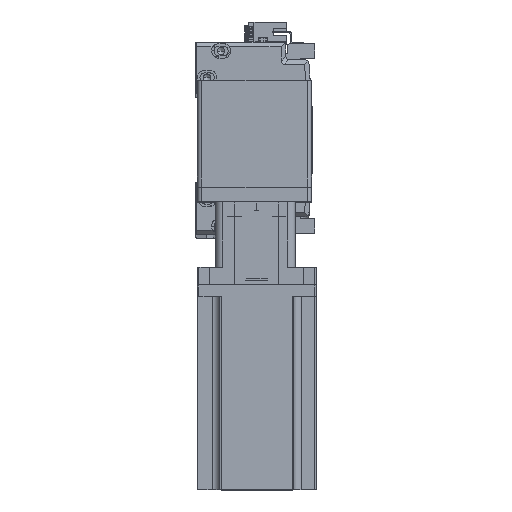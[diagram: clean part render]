
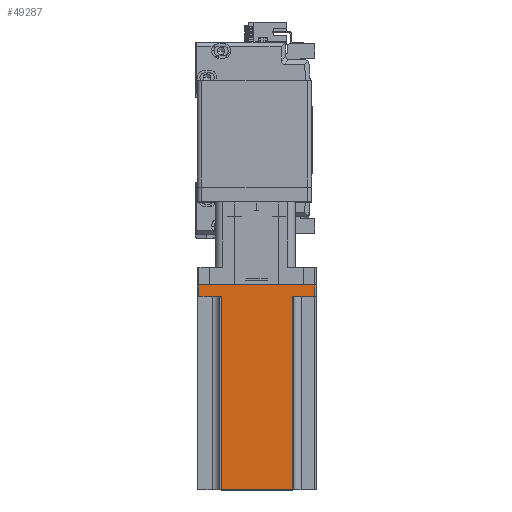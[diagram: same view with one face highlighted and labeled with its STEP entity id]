
A CAD part, top view. The second image highlights one B-rep face of the part: STEP entity #49287.
In plain terms, the highlighted planar face has unit normal (0, 0, 1) as drawn and (0, 1, 0) by its records, which use the part's own axes.
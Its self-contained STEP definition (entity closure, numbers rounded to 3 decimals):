
#2103 = ORIENTED_EDGE ( 'NONE', *, *, #8108, .T. ) ;
#2765 = EDGE_LOOP ( 'NONE', ( #18609, #37055, #33507, #2103, #41357, #20512, #18302, #22149 ) ) ;
#3980 = CARTESIAN_POINT ( 'NONE',  ( 24., 40., 138.3 ) ) ;
#4141 = VECTOR ( 'NONE', #38240, 1000. ) ;
#5223 = CARTESIAN_POINT ( 'NONE',  ( 39., 40., 138.3 ) ) ;
#5328 = VECTOR ( 'NONE', #50514, 1000. ) ;
#5619 = DIRECTION ( 'NONE',  ( 0., 0., -1. ) ) ;
#8108 = EDGE_CURVE ( 'NONE', #24565, #33915, #51635, .T. ) ;
#8487 = EDGE_CURVE ( 'NONE', #32323, #53618, #32849, .T. ) ;
#8588 = EDGE_CURVE ( 'NONE', #53618, #30007, #45244, .T. ) ;
#12022 = VERTEX_POINT ( 'NONE', #43926 ) ;
#12427 = DIRECTION ( 'NONE',  ( 0., -1., 0. ) ) ;
#12623 = DIRECTION ( 'NONE',  ( 0., 0., 1. ) ) ;
#13888 = EDGE_CURVE ( 'NONE', #28366, #33915, #27629, .T. ) ;
#13977 = EDGE_CURVE ( 'NONE', #28366, #25150, #45745, .T. ) ;
#14281 = CARTESIAN_POINT ( 'NONE',  ( -24., 40., 138.3 ) ) ;
#15359 = LINE ( 'NONE', #50490, #4141 ) ;
#15859 = EDGE_CURVE ( 'NONE', #24565, #30007, #15359, .T. ) ;
#16202 = EDGE_CURVE ( 'NONE', #12022, #32323, #19870, .T. ) ;
#17919 = DIRECTION ( 'NONE',  ( 0., 0., -1. ) ) ;
#18302 = ORIENTED_EDGE ( 'NONE', *, *, #19083, .T. ) ;
#18609 = ORIENTED_EDGE ( 'NONE', *, *, #8487, .T. ) ;
#19083 = EDGE_CURVE ( 'NONE', #25150, #12022, #45408, .T. ) ;
#19870 = LINE ( 'NONE', #32752, #50276 ) ;
#20512 = ORIENTED_EDGE ( 'NONE', *, *, #13977, .T. ) ;
#20721 = CARTESIAN_POINT ( 'NONE',  ( 39., 40., 0. ) ) ;
#20728 = PLANE ( 'NONE',  #39746 ) ;
#22040 = CARTESIAN_POINT ( 'NONE',  ( 24., 40., 8. ) ) ;
#22076 = DIRECTION ( 'NONE',  ( -1., 0., 0. ) ) ;
#22149 = ORIENTED_EDGE ( 'NONE', *, *, #16202, .T. ) ;
#22368 = CARTESIAN_POINT ( 'NONE',  ( -39., 40., 8. ) ) ;
#22848 = FACE_OUTER_BOUND ( 'NONE', #2765, .T. ) ;
#23359 = VECTOR ( 'NONE', #22076, 1000. ) ;
#24435 = DIRECTION ( 'NONE',  ( 0., 0., 1. ) ) ;
#24565 = VERTEX_POINT ( 'NONE', #45240 ) ;
#25150 = VERTEX_POINT ( 'NONE', #20721 ) ;
#26321 = DIRECTION ( 'NONE',  ( 1., 0., 0. ) ) ;
#27629 = LINE ( 'NONE', #46403, #5328 ) ;
#28316 = CARTESIAN_POINT ( 'NONE',  ( -25., 40., 8. ) ) ;
#28366 = VERTEX_POINT ( 'NONE', #51343 ) ;
#30007 = VERTEX_POINT ( 'NONE', #53912 ) ;
#32323 = VERTEX_POINT ( 'NONE', #22368 ) ;
#32752 = CARTESIAN_POINT ( 'NONE',  ( -39., 40., 138.3 ) ) ;
#32849 = LINE ( 'NONE', #28316, #50908 ) ;
#33405 = VECTOR ( 'NONE', #17919, 1000. ) ;
#33507 = ORIENTED_EDGE ( 'NONE', *, *, #15859, .F. ) ;
#33915 = VERTEX_POINT ( 'NONE', #22040 ) ;
#34208 = VECTOR ( 'NONE', #12623, 1000. ) ;
#36189 = CARTESIAN_POINT ( 'NONE',  ( -24., 40., 8. ) ) ;
#37055 = ORIENTED_EDGE ( 'NONE', *, *, #8588, .T. ) ;
#37364 = CARTESIAN_POINT ( 'NONE',  ( 40., 40., 138.3 ) ) ;
#38240 = DIRECTION ( 'NONE',  ( -1., 0., 0. ) ) ;
#39746 = AXIS2_PLACEMENT_3D ( 'NONE', #37364, #12427, #41535 ) ;
#40723 = VECTOR ( 'NONE', #5619, 1000. ) ;
#41357 = ORIENTED_EDGE ( 'NONE', *, *, #13888, .F. ) ;
#41535 = DIRECTION ( 'NONE',  ( 1., 0., 0. ) ) ;
#43926 = CARTESIAN_POINT ( 'NONE',  ( -39., 40., 0. ) ) ;
#45240 = CARTESIAN_POINT ( 'NONE',  ( 24., 40., 138.3 ) ) ;
#45244 = LINE ( 'NONE', #14281, #34208 ) ;
#45408 = LINE ( 'NONE', #50985, #23359 ) ;
#45745 = LINE ( 'NONE', #5223, #33405 ) ;
#46403 = CARTESIAN_POINT ( 'NONE',  ( 25., 40., 8. ) ) ;
#49287 = ADVANCED_FACE ( 'NONE', ( #22848 ), #20728, .F. ) ;
#50276 = VECTOR ( 'NONE', #24435, 1000. ) ;
#50490 = CARTESIAN_POINT ( 'NONE',  ( 40., 40., 138.3 ) ) ;
#50514 = DIRECTION ( 'NONE',  ( -1., 0., 0. ) ) ;
#50908 = VECTOR ( 'NONE', #26321, 1000. ) ;
#50985 = CARTESIAN_POINT ( 'NONE',  ( 40., 40., 0. ) ) ;
#51343 = CARTESIAN_POINT ( 'NONE',  ( 39., 40., 8. ) ) ;
#51635 = LINE ( 'NONE', #3980, #40723 ) ;
#53618 = VERTEX_POINT ( 'NONE', #36189 ) ;
#53912 = CARTESIAN_POINT ( 'NONE',  ( -24., 40., 138.3 ) ) ;
